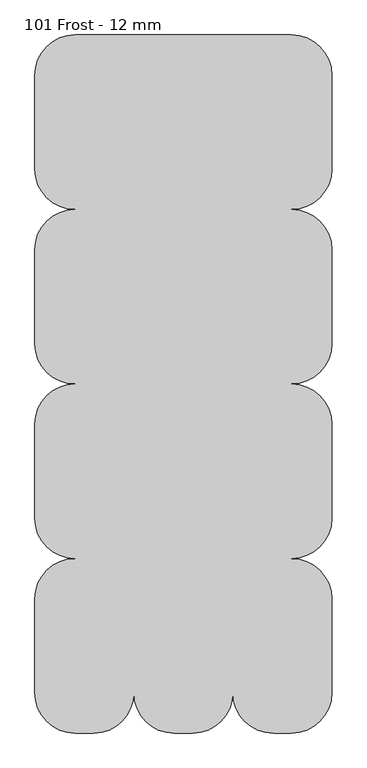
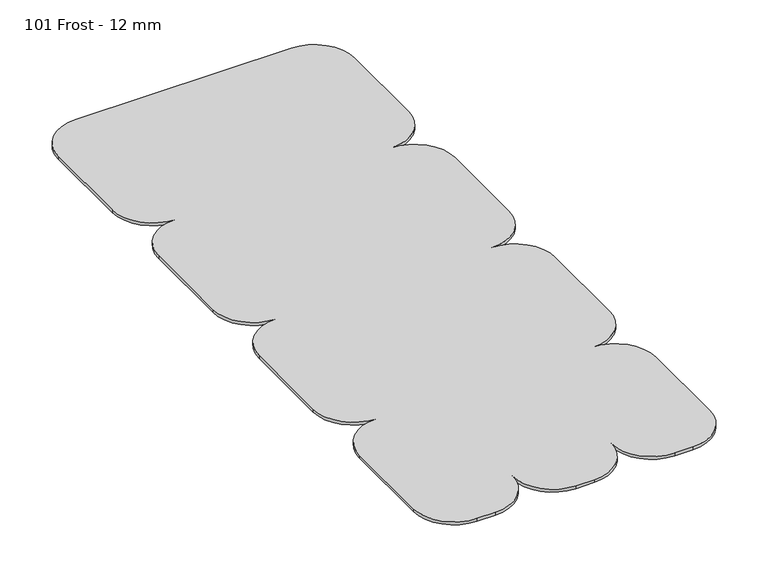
"""IFC4 building model written with IfcOpenShell, lengths in millimetres: proxy geometry, Wall-Panel-Kirei_USA-EchoScreen-Fifty3_Screen : 101 Frost - 12 mm."""

from ifc_helpers import new_model, si_unit, frame, origin, place, context, project, spatial, circle_curve, source, transform, mapped, element, save
from ifc_brep_helpers import plane_surface, cylinder_surface, advanced_brep


def proxy_101_frost_12_mm_bd352d98(model_context):
    return source(origin(), model_context, "Body", "AdvancedBrep", [
        advanced_brep(
        [(-450.85, 1371.6, 12.0054687), (-609.6, 1212.85, 12.0054687), (-609.6, 844.55, 12.0054687), (-450.85, 685.8, 12.0054687), (-609.6, 527.05, 12.0054687), (-609.6, 158.75, 12.0054687), (-450.85, 0.0, 12.0054687), (-609.6, -158.75, 12.0054687), (-609.6, -527.05, 12.0054687), (-450.85, -685.8, 12.0054687), (-609.6, -844.55, 12.0054687), (-609.6, -1212.85, 12.0054687), (-450.85, -1371.6, 12.0054687), (-378.8829458, -1371.6, 12.0054687), (-220.1329458, -1212.85, 12.0054687), (-61.3829458, -1371.6, 12.0054687), (10.5829458, -1371.6, 12.0054687), (169.3329458, -1212.85, 12.0054687), (328.0829458, -1371.6, 12.0054687), (400.05, -1371.6, 12.0054687), (558.8, -1212.85, 12.0054687), (558.8, -844.55, 12.0054687), (400.05, -685.8, 12.0054687), (558.8, -527.05, 12.0054687), (558.8, -158.75, 12.0054687), (400.05, 0.0, 12.0054687), (558.8, 158.75, 12.0054687), (558.8, 527.05, 12.0054687), (400.05, 685.8, 12.0054687), (558.8, 844.55, 12.0054687), (558.8, 1212.85, 12.0054687), (400.05, 1371.6, 12.0054687), (-450.85, 1371.6, 0.0), (400.05, 1371.6, 0.0), (558.8, 1212.85, 0.0), (558.8, 844.55, 0.0), (400.05, 685.8, 0.0), (558.8, 527.05, 0.0), (558.8, 158.75, 0.0), (400.05, 0.0, 0.0), (558.8, -158.75, 0.0), (558.8, -527.05, 0.0), (400.05, -685.8, 0.0), (558.8, -844.55, 0.0), (558.8, -1212.85, 0.0), (400.05, -1371.6, 0.0), (328.0829458, -1371.6, 0.0), (169.3329458, -1212.85, 0.0), (10.5829458, -1371.6, 0.0), (-61.3829458, -1371.6, 0.0), (-220.1329458, -1212.85, 0.0), (-378.8829458, -1371.6, 0.0), (-450.85, -1371.6, 0.0), (-609.6, -1212.85, 0.0), (-609.6, -844.55, 0.0), (-450.85, -685.8, 0.0), (-609.6, -527.05, 0.0), (-609.6, -158.75, 0.0), (-450.85, 0.0, 0.0), (-609.6, 158.75, 0.0), (-609.6, 527.05, 0.0), (-450.85, 685.8, 0.0), (-609.6, 844.55, 0.0), (-609.6, 1212.85, 0.0)],
        [
            (0, 1, circle_curve(frame((-450.85, 1212.85, 12.0054687), z_axis=(0.0, 0.0, 1.0), x_axis=(1.0, 0.0, 0.0)), 158.75)),
            (1, 2),
            (2, 3, circle_curve(frame((-450.85, 844.55, 12.0054687), z_axis=(0.0, 0.0, 1.0), x_axis=(1.0, 0.0, 0.0)), 158.75)),
            (3, 4, circle_curve(frame((-450.85, 527.05, 12.0054687), z_axis=(0.0, 0.0, 1.0), x_axis=(1.0, 0.0, 0.0)), 158.75)),
            (4, 5),
            (5, 6, circle_curve(frame((-450.85, 158.75, 12.0054687), z_axis=(0.0, 0.0, 1.0), x_axis=(1.0, 0.0, 0.0)), 158.75)),
            (6, 7, circle_curve(frame((-450.85, -158.75, 12.0054687), z_axis=(0.0, 0.0, 1.0), x_axis=(1.0, 0.0, 0.0)), 158.75)),
            (7, 8),
            (8, 9, circle_curve(frame((-450.85, -527.05, 12.0054687), z_axis=(0.0, 0.0, 1.0), x_axis=(1.0, 0.0, 0.0)), 158.75)),
            (9, 10, circle_curve(frame((-450.85, -844.55, 12.0054687), z_axis=(0.0, 0.0, 1.0), x_axis=(1.0, 0.0, 0.0)), 158.75)),
            (10, 11),
            (11, 12, circle_curve(frame((-450.85, -1212.85, 12.0054687), z_axis=(0.0, 0.0, 1.0), x_axis=(1.0, 0.0, 0.0)), 158.75)),
            (12, 13),
            (13, 14, circle_curve(frame((-378.8829458, -1212.85, 12.0054687), z_axis=(0.0, 0.0, 1.0), x_axis=(1.0, 0.0, 0.0)), 158.75)),
            (14, 15, circle_curve(frame((-61.3829458, -1212.85, 12.0054687), z_axis=(0.0, 0.0, 1.0), x_axis=(1.0, 0.0, 0.0)), 158.75)),
            (15, 16),
            (16, 17, circle_curve(frame((10.5829458, -1212.85, 12.0054687), z_axis=(0.0, 0.0, 1.0), x_axis=(1.0, 0.0, 0.0)), 158.75)),
            (17, 18, circle_curve(frame((328.0829458, -1212.85, 12.0054687), z_axis=(0.0, 0.0, 1.0), x_axis=(1.0, 0.0, 0.0)), 158.75)),
            (18, 19),
            (19, 20, circle_curve(frame((400.05, -1212.85, 12.0054687), z_axis=(0.0, 0.0, 1.0), x_axis=(1.0, 0.0, 0.0)), 158.75)),
            (20, 21),
            (21, 22, circle_curve(frame((400.05, -844.55, 12.0054687), z_axis=(0.0, 0.0, 1.0), x_axis=(1.0, 0.0, 0.0)), 158.75)),
            (22, 23, circle_curve(frame((400.05, -527.05, 12.0054687), z_axis=(0.0, 0.0, 1.0), x_axis=(1.0, 0.0, 0.0)), 158.75)),
            (23, 24),
            (24, 25, circle_curve(frame((400.05, -158.75, 12.0054687), z_axis=(0.0, 0.0, 1.0), x_axis=(1.0, 0.0, 0.0)), 158.75)),
            (25, 26, circle_curve(frame((400.05, 158.75, 12.0054687), z_axis=(0.0, 0.0, 1.0), x_axis=(1.0, 0.0, 0.0)), 158.75)),
            (26, 27),
            (27, 28, circle_curve(frame((400.05, 527.05, 12.0054687), z_axis=(0.0, 0.0, 1.0), x_axis=(1.0, 0.0, 0.0)), 158.75)),
            (28, 29, circle_curve(frame((400.05, 844.55, 12.0054687), z_axis=(0.0, 0.0, 1.0), x_axis=(1.0, 0.0, 0.0)), 158.75)),
            (29, 30),
            (30, 31, circle_curve(frame((400.05, 1212.85, 12.0054687), z_axis=(0.0, 0.0, 1.0), x_axis=(1.0, 0.0, 0.0)), 158.75)),
            (31, 0),
            (32, 33),
            (33, 34, circle_curve(frame((400.05, 1212.85, 0.0), z_axis=(0.0, 0.0, -1.0), x_axis=(1.0, 0.0, 0.0)), 158.75)),
            (34, 35),
            (35, 36, circle_curve(frame((400.05, 844.55, 0.0), z_axis=(0.0, 0.0, -1.0), x_axis=(1.0, 0.0, 0.0)), 158.75)),
            (36, 37, circle_curve(frame((400.05, 527.05, 0.0), z_axis=(0.0, 0.0, -1.0), x_axis=(1.0, 0.0, 0.0)), 158.75)),
            (37, 38),
            (38, 39, circle_curve(frame((400.05, 158.75, 0.0), z_axis=(0.0, 0.0, -1.0), x_axis=(1.0, 0.0, 0.0)), 158.75)),
            (39, 40, circle_curve(frame((400.05, -158.75, 0.0), z_axis=(0.0, 0.0, -1.0), x_axis=(1.0, 0.0, 0.0)), 158.75)),
            (40, 41),
            (41, 42, circle_curve(frame((400.05, -527.05, 0.0), z_axis=(0.0, 0.0, -1.0), x_axis=(1.0, 0.0, 0.0)), 158.75)),
            (42, 43, circle_curve(frame((400.05, -844.55, 0.0), z_axis=(0.0, 0.0, -1.0), x_axis=(1.0, 0.0, 0.0)), 158.75)),
            (43, 44),
            (44, 45, circle_curve(frame((400.05, -1212.85, 0.0), z_axis=(0.0, 0.0, -1.0), x_axis=(1.0, 0.0, 0.0)), 158.75)),
            (45, 46),
            (46, 47, circle_curve(frame((328.0829458, -1212.85, 0.0), z_axis=(0.0, 0.0, -1.0), x_axis=(1.0, 0.0, 0.0)), 158.75)),
            (47, 48, circle_curve(frame((10.5829458, -1212.85, 0.0), z_axis=(0.0, 0.0, -1.0), x_axis=(1.0, 0.0, 0.0)), 158.75)),
            (48, 49),
            (49, 50, circle_curve(frame((-61.3829458, -1212.85, 0.0), z_axis=(0.0, 0.0, -1.0), x_axis=(1.0, 0.0, 0.0)), 158.75)),
            (50, 51, circle_curve(frame((-378.8829458, -1212.85, 0.0), z_axis=(0.0, 0.0, -1.0), x_axis=(1.0, 0.0, 0.0)), 158.75)),
            (51, 52),
            (52, 53, circle_curve(frame((-450.85, -1212.85, 0.0), z_axis=(0.0, 0.0, -1.0), x_axis=(1.0, 0.0, 0.0)), 158.75)),
            (53, 54),
            (54, 55, circle_curve(frame((-450.85, -844.55, 0.0), z_axis=(0.0, 0.0, -1.0), x_axis=(1.0, 0.0, 0.0)), 158.75)),
            (55, 56, circle_curve(frame((-450.85, -527.05, 0.0), z_axis=(0.0, 0.0, -1.0), x_axis=(1.0, 0.0, 0.0)), 158.75)),
            (56, 57),
            (57, 58, circle_curve(frame((-450.85, -158.75, 0.0), z_axis=(0.0, 0.0, -1.0), x_axis=(1.0, 0.0, 0.0)), 158.75)),
            (58, 59, circle_curve(frame((-450.85, 158.75, 0.0), z_axis=(0.0, 0.0, -1.0), x_axis=(1.0, 0.0, 0.0)), 158.75)),
            (59, 60),
            (60, 61, circle_curve(frame((-450.85, 527.05, 0.0), z_axis=(0.0, 0.0, -1.0), x_axis=(1.0, 0.0, 0.0)), 158.75)),
            (61, 62, circle_curve(frame((-450.85, 844.55, 0.0), z_axis=(0.0, 0.0, -1.0), x_axis=(1.0, 0.0, 0.0)), 158.75)),
            (62, 63),
            (63, 32, circle_curve(frame((-450.85, 1212.85, 0.0), z_axis=(0.0, 0.0, -1.0), x_axis=(1.0, 0.0, 0.0)), 158.75)),
            (31, 33),
            (32, 0),
            (63, 1),
            (62, 2),
            (61, 3),
            (60, 4),
            (59, 5),
            (58, 6),
            (57, 7),
            (56, 8),
            (55, 9),
            (54, 10),
            (53, 11),
            (52, 12),
            (51, 13),
            (50, 14),
            (49, 15),
            (48, 16),
            (47, 17),
            (46, 18),
            (45, 19),
            (44, 20),
            (43, 21),
            (42, 22),
            (41, 23),
            (40, 24),
            (39, 25),
            (38, 26),
            (37, 27),
            (36, 28),
            (35, 29),
            (34, 30),
        ],
        [
            plane_surface(frame((-292.1, 1212.85, 12.0054687), z_axis=(0.0, 0.0, 1.0), x_axis=(0.0, 1.0, 0.0))),
            plane_surface(frame((-292.1, 1212.85, 0.0), z_axis=(0.0, 0.0, -1.0), x_axis=(0.0, -1.0, 0.0))),
            plane_surface(frame((400.05, 1371.6, 12.0054687), z_axis=(0.0, 1.0, 0.0), x_axis=(0.0, 0.0, -1.0))),
            cylinder_surface(frame((-450.85, 1212.85, 0.0), z_axis=(0.0, 0.0, 1.0), x_axis=(1.0, 0.0, 0.0)), 158.75),
            plane_surface(frame((-609.6, 1212.85, 12.0054687), z_axis=(-1.0, 0.0, 0.0), x_axis=(0.0, 0.0, -1.0))),
            cylinder_surface(frame((-450.85, 844.55, 0.0), z_axis=(0.0, 0.0, 1.0), x_axis=(1.0, 0.0, 0.0)), 158.75),
            cylinder_surface(frame((-450.85, 527.05, 0.0), z_axis=(0.0, 0.0, 1.0), x_axis=(1.0, 0.0, 0.0)), 158.75),
            plane_surface(frame((-609.6, 527.05, 12.0054687), z_axis=(-1.0, 0.0, 0.0), x_axis=(0.0, 0.0, -1.0))),
            cylinder_surface(frame((-450.85, 158.75, 0.0), z_axis=(0.0, 0.0, 1.0), x_axis=(1.0, 0.0, 0.0)), 158.75),
            cylinder_surface(frame((-450.85, -158.75, 0.0), z_axis=(0.0, 0.0, 1.0), x_axis=(1.0, 0.0, 0.0)), 158.75),
            plane_surface(frame((-609.6, -158.75, 12.0054687), z_axis=(-1.0, 0.0, 0.0), x_axis=(0.0, 0.0, -1.0))),
            cylinder_surface(frame((-450.85, -527.05, 0.0), z_axis=(0.0, 0.0, 1.0), x_axis=(1.0, 0.0, 0.0)), 158.75),
            cylinder_surface(frame((-450.85, -844.55, 0.0), z_axis=(0.0, 0.0, 1.0), x_axis=(1.0, 0.0, 0.0)), 158.75),
            plane_surface(frame((-609.6, -844.55, 12.0054687), z_axis=(-1.0, 0.0, 0.0), x_axis=(0.0, 0.0, -1.0))),
            cylinder_surface(frame((-450.85, -1212.85, 0.0), z_axis=(0.0, 0.0, 1.0), x_axis=(1.0, 0.0, 0.0)), 158.75),
            plane_surface(frame((-450.85, -1371.6, 12.0054687), z_axis=(0.0, -1.0, 0.0), x_axis=(0.0, 0.0, -1.0))),
            cylinder_surface(frame((-378.8829458, -1212.85, 0.0), z_axis=(0.0, 0.0, 1.0), x_axis=(1.0, 0.0, 0.0)), 158.75),
            cylinder_surface(frame((-61.3829458, -1212.85, 0.0), z_axis=(0.0, 0.0, 1.0), x_axis=(1.0, 0.0, 0.0)), 158.75),
            plane_surface(frame((-61.3829458, -1371.6, 12.0054687), z_axis=(0.0, -1.0, 0.0), x_axis=(0.0, 0.0, -1.0))),
            cylinder_surface(frame((10.5829458, -1212.85, 0.0), z_axis=(0.0, 0.0, 1.0), x_axis=(1.0, 0.0, 0.0)), 158.75),
            cylinder_surface(frame((328.0829458, -1212.85, 0.0), z_axis=(0.0, 0.0, 1.0), x_axis=(1.0, 0.0, 0.0)), 158.75),
            plane_surface(frame((328.0829458, -1371.6, 12.0054687), z_axis=(0.0, -1.0, 0.0), x_axis=(0.0, 0.0, -1.0))),
            cylinder_surface(frame((400.05, -1212.85, 0.0), z_axis=(0.0, 0.0, 1.0), x_axis=(1.0, 0.0, 0.0)), 158.75),
            plane_surface(frame((558.8, -1212.85, 12.0054687), z_axis=(1.0, 0.0, 0.0), x_axis=(0.0, 0.0, -1.0))),
            cylinder_surface(frame((400.05, -844.55, 0.0), z_axis=(0.0, 0.0, 1.0), x_axis=(1.0, 0.0, 0.0)), 158.75),
            cylinder_surface(frame((400.05, -527.05, 0.0), z_axis=(0.0, 0.0, 1.0), x_axis=(1.0, 0.0, 0.0)), 158.75),
            plane_surface(frame((558.8, -527.05, 12.0054687), z_axis=(1.0, 0.0, 0.0), x_axis=(0.0, 0.0, -1.0))),
            cylinder_surface(frame((400.05, -158.75, 0.0), z_axis=(0.0, 0.0, 1.0), x_axis=(1.0, 0.0, 0.0)), 158.75),
            cylinder_surface(frame((400.05, 158.75, 0.0), z_axis=(0.0, 0.0, 1.0), x_axis=(1.0, 0.0, 0.0)), 158.75),
            plane_surface(frame((558.8, 158.75, 12.0054687), z_axis=(1.0, 0.0, 0.0), x_axis=(0.0, 0.0, -1.0))),
            cylinder_surface(frame((400.05, 527.05, 0.0), z_axis=(0.0, 0.0, 1.0), x_axis=(1.0, 0.0, 0.0)), 158.75),
            cylinder_surface(frame((400.05, 844.55, 0.0), z_axis=(0.0, 0.0, 1.0), x_axis=(1.0, 0.0, 0.0)), 158.75),
            plane_surface(frame((558.8, 844.55, 12.0054687), z_axis=(1.0, 0.0, 0.0), x_axis=(0.0, 0.0, -1.0))),
            cylinder_surface(frame((400.05, 1212.85, 0.0), z_axis=(0.0, 0.0, 1.0), x_axis=(1.0, 0.0, 0.0)), 158.75),
        ],
        [
            (0, [[1, 2, 3, 4, 5, 6, 7, 8, 9, 10, 11, 12, 13, 14, 15, 16, 17, 18, 19, 20, 21, 22, 23, 24, 25, 26, 27, 28, 29, 30, 31, 32]]),
            (1, [[33, 34, 35, 36, 37, 38, 39, 40, 41, 42, 43, 44, 45, 46, 47, 48, 49, 50, 51, 52, 53, 54, 55, 56, 57, 58, 59, 60, 61, 62, 63, 64]]),
            (2, [[-32, 65, -33, 66]]),
            (3, [[-1, -66, -64, 67]]),
            (4, [[-2, -67, -63, 68]]),
            (5, [[-3, -68, -62, 69]]),
            (6, [[-4, -69, -61, 70]]),
            (7, [[-5, -70, -60, 71]]),
            (8, [[-6, -71, -59, 72]]),
            (9, [[-7, -72, -58, 73]]),
            (10, [[-8, -73, -57, 74]]),
            (11, [[-9, -74, -56, 75]]),
            (12, [[-10, -75, -55, 76]]),
            (13, [[-11, -76, -54, 77]]),
            (14, [[-12, -77, -53, 78]]),
            (15, [[-13, -78, -52, 79]]),
            (16, [[-14, -79, -51, 80]]),
            (17, [[-15, -80, -50, 81]]),
            (18, [[-16, -81, -49, 82]]),
            (19, [[-17, -82, -48, 83]]),
            (20, [[-18, -83, -47, 84]]),
            (21, [[-19, -84, -46, 85]]),
            (22, [[-20, -85, -45, 86]]),
            (23, [[-21, -86, -44, 87]]),
            (24, [[-22, -87, -43, 88]]),
            (25, [[-23, -88, -42, 89]]),
            (26, [[-24, -89, -41, 90]]),
            (27, [[-25, -90, -40, 91]]),
            (28, [[-26, -91, -39, 92]]),
            (29, [[-27, -92, -38, 93]]),
            (30, [[-28, -93, -37, 94]]),
            (31, [[-29, -94, -36, 95]]),
            (32, [[-30, -95, -35, 96]]),
            (33, [[-31, -96, -34, -65]]),
        ],
    ),
    ])


if __name__ == "__main__":
    model = new_model("IFC4")
    model_context = context("Model", 3, world=origin())
    ifc_project = project(units=[si_unit("LENGTHUNIT", "METRE", prefix="MILLI")], contexts=[model_context])
    site = spatial("IfcSite", under=ifc_project)
    building = spatial("IfcBuilding", under=site)
    placement = place(None, origin())
    proxy_101_frost_12_mm_shape = proxy_101_frost_12_mm_bd352d98(model_context)
    element("IfcBuildingElementProxy", 1, Name="Wall-Panel-Kirei_USA-EchoScreen-Fifty3_Screen : 101 Frost - 12 mm", ObjectType="Wall-Panel-Kirei_USA-EchoScreen-Fifty3_Screen : 101 Frost - 12 mm", at=placement, inside=building, context=model_context, shape_type="MappedRepresentation", body=[
        mapped(proxy_101_frost_12_mm_shape, transform((0.0, 0.0, 0.0), x_axis=(1.0, 0.0, 0.0), y_axis=(0.0, 1.0, 0.0), z_axis=(0.0, 0.0, 1.0))),
    ])
    save(model, "model.ifc")
